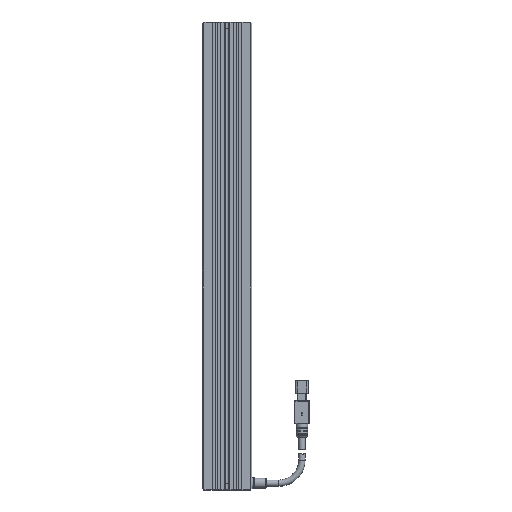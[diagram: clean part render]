
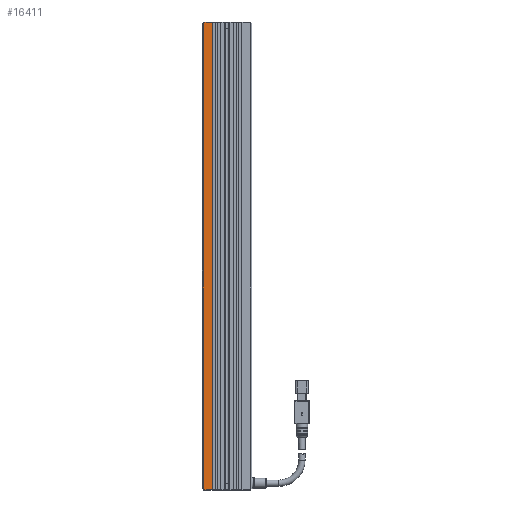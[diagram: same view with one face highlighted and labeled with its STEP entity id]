
A CAD part, top view. The second image highlights one B-rep face of the part: STEP entity #16411.
In plain terms, the highlighted planar face has unit normal (0, 0, 1).
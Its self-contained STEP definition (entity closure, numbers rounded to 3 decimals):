
#42 = DIRECTION ( 'NONE',  ( -0.707, -0.707, 0. ) ) ;
#159 = ORIENTED_EDGE ( 'NONE', *, *, #15184, .F. ) ;
#260 = LINE ( 'NONE', #2196, #13338 ) ;
#266 = EDGE_LOOP ( 'NONE', ( #19298, #9491, #18492, #11541, #15246, #159 ) ) ;
#584 = VECTOR ( 'NONE', #42, 1000. ) ;
#1693 = VERTEX_POINT ( 'NONE', #17188 ) ;
#1712 = VERTEX_POINT ( 'NONE', #7934 ) ;
#1739 = VECTOR ( 'NONE', #1830, 1000. ) ;
#1830 = DIRECTION ( 'NONE',  ( 1., 0., 0. ) ) ;
#2196 = CARTESIAN_POINT ( 'NONE',  ( -15.5, 152., 12.5 ) ) ;
#2234 = DIRECTION ( 'NONE',  ( 1., 0., 0. ) ) ;
#2640 = CARTESIAN_POINT ( 'NONE',  ( -15.5, 152., 12.5 ) ) ;
#3245 = CARTESIAN_POINT ( 'NONE',  ( -16., -151., 12.5 ) ) ;
#4085 = DIRECTION ( 'NONE',  ( -1., 0., 0. ) ) ;
#5196 = VECTOR ( 'NONE', #10841, 1000. ) ;
#5717 = DIRECTION ( 'NONE',  ( 0., 0., -1. ) ) ;
#6105 = CARTESIAN_POINT ( 'NONE',  ( -15., 152., 12.5 ) ) ;
#7280 = CARTESIAN_POINT ( 'NONE',  ( -15., 152., 12.5 ) ) ;
#7934 = CARTESIAN_POINT ( 'NONE',  ( -9.7, -152., 12.5 ) ) ;
#8009 = VECTOR ( 'NONE', #2234, 1000. ) ;
#8602 = EDGE_CURVE ( 'NONE', #9670, #18836, #19416, .T. ) ;
#9310 = FACE_OUTER_BOUND ( 'NONE', #266, .T. ) ;
#9332 = CARTESIAN_POINT ( 'NONE',  ( -9.7, 152., 12.5 ) ) ;
#9491 = ORIENTED_EDGE ( 'NONE', *, *, #18086, .T. ) ;
#9670 = VERTEX_POINT ( 'NONE', #14452 ) ;
#9796 = CARTESIAN_POINT ( 'NONE',  ( -15.5, 152., 12.5 ) ) ;
#9962 = EDGE_CURVE ( 'NONE', #1693, #9670, #260, .T. ) ;
#10321 = VECTOR ( 'NONE', #15476, 1000. ) ;
#10583 = LINE ( 'NONE', #9796, #8009 ) ;
#10628 = EDGE_CURVE ( 'NONE', #18836, #1712, #12178, .T. ) ;
#10841 = DIRECTION ( 'NONE',  ( 0.707, -0.707, 0. ) ) ;
#11541 = ORIENTED_EDGE ( 'NONE', *, *, #8602, .T. ) ;
#12178 = LINE ( 'NONE', #13449, #1739 ) ;
#12945 = LINE ( 'NONE', #6105, #584 ) ;
#13338 = VECTOR ( 'NONE', #14539, 1000. ) ;
#13449 = CARTESIAN_POINT ( 'NONE',  ( -15.5, -152., 12.5 ) ) ;
#13666 = VERTEX_POINT ( 'NONE', #7280 ) ;
#14452 = CARTESIAN_POINT ( 'NONE',  ( -15.5, -151.5, 12.5 ) ) ;
#14539 = DIRECTION ( 'NONE',  ( 0., -1., 0. ) ) ;
#14879 = PLANE ( 'NONE',  #16859 ) ;
#15184 = EDGE_CURVE ( 'NONE', #16753, #1712, #19316, .T. ) ;
#15246 = ORIENTED_EDGE ( 'NONE', *, *, #10628, .T. ) ;
#15476 = DIRECTION ( 'NONE',  ( 0., -1., 0. ) ) ;
#16411 = ADVANCED_FACE ( 'NONE', ( #9310 ), #14879, .F. ) ;
#16594 = EDGE_CURVE ( 'NONE', #13666, #16753, #10583, .T. ) ;
#16753 = VERTEX_POINT ( 'NONE', #9332 ) ;
#16859 = AXIS2_PLACEMENT_3D ( 'NONE', #2640, #5717, #4085 ) ;
#16887 = CARTESIAN_POINT ( 'NONE',  ( -9.7, 152., 12.5 ) ) ;
#17188 = CARTESIAN_POINT ( 'NONE',  ( -15.5, 151.5, 12.5 ) ) ;
#17212 = CARTESIAN_POINT ( 'NONE',  ( -15., -152., 12.5 ) ) ;
#18086 = EDGE_CURVE ( 'NONE', #13666, #1693, #12945, .T. ) ;
#18492 = ORIENTED_EDGE ( 'NONE', *, *, #9962, .T. ) ;
#18836 = VERTEX_POINT ( 'NONE', #17212 ) ;
#19298 = ORIENTED_EDGE ( 'NONE', *, *, #16594, .F. ) ;
#19316 = LINE ( 'NONE', #16887, #10321 ) ;
#19416 = LINE ( 'NONE', #3245, #5196 ) ;
